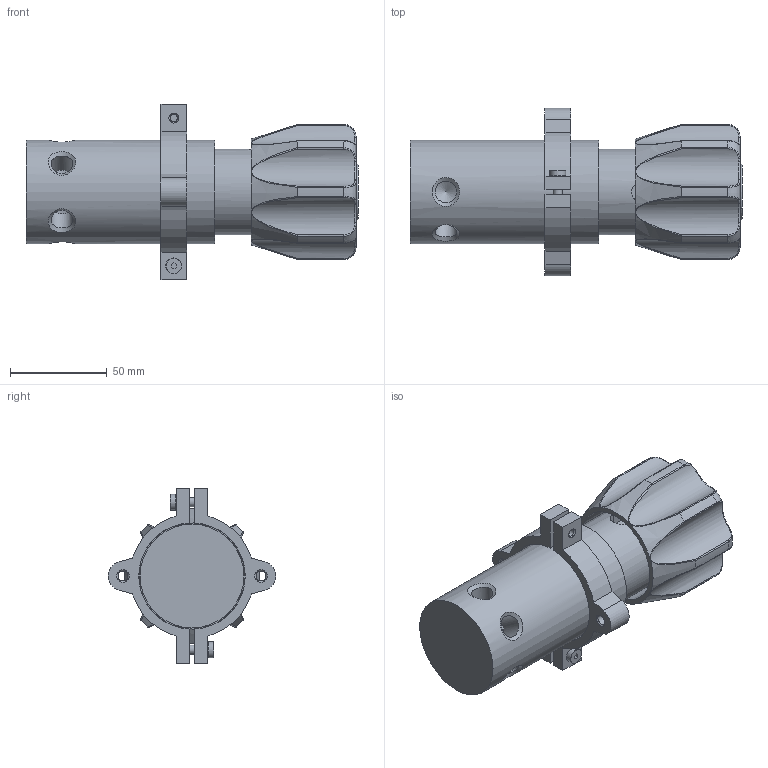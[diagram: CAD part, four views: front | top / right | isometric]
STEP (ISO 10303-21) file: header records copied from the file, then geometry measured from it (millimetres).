
FILE_DESCRIPTION(/* description */ (''),/* implementation_level */ '2;1');
FILE_NAME(/* name */ '44_11XX_24_001.stp',/* time_stamp */ '2014-12-16T11:27:28+08:00',/* author */ (''),/* organization */ (''),/* preprocessor_version */ 'ST-DEVELOPER v15',/* originating_system */ 'SIEMENS PLM Software NX 9.0',/* authorisation */ '');
FILE_SCHEMA (('CONFIG_CONTROL_DESIGN'));
Length unit declared in the file: millimetre
Products named in the file (9): 5406_001; 1174_G; 5397_001; 5432_001; 6320_002; 5950-24X1_001; 5945_001; 1129_002_MODEL; 44-11XX-24_001
Assembly tree (10 placements, depth 3):
  44-11XX-24_001
    5945_001
    5950-24X1_001
    6320_002
    5432_001
    5397_001
    1129_002_MODEL
      1174_G  x2
      5406_001  x2
Bounding box: 171.18 x 86.3 x 90.42 mm (x, y, z)
Volume: 390371 mm3; surface area: 82020.9 mm2
Topology: 46 solids, 46 shells, 576 faces, 1374 edges, 901 vertices
Faces by surface type: plane 348, extrusion 85, cylinder 74, bspline 28, torus 24, cone 17
Full cylindrical faces by diameter (mm): 3.797 x2, 4.394 x2, 4.826 x2, 5.118 x2, 6.604 x2, 8.179 x2, 11.113 x4, 24.7 x1, 25.082 x1, 29.21 x1, 30.226 x1, 30.988 x1, 42.164 x1, 42.901 x1, 44.285 x1, 49.784 x1, 50.292 x1, 51.689 x1, 53.531 x1
Entity records: 20904 total; most frequent: CARTESIAN_POINT 8906, ORIENTED_EDGE 2440, DIRECTION 1680, EDGE_CURVE 1220, VERTEX_POINT 827, B_SPLINE_CURVE_WITH_KNOTS 742, EDGE_LOOP 635, AXIS2_PLACEMENT_3D 592
